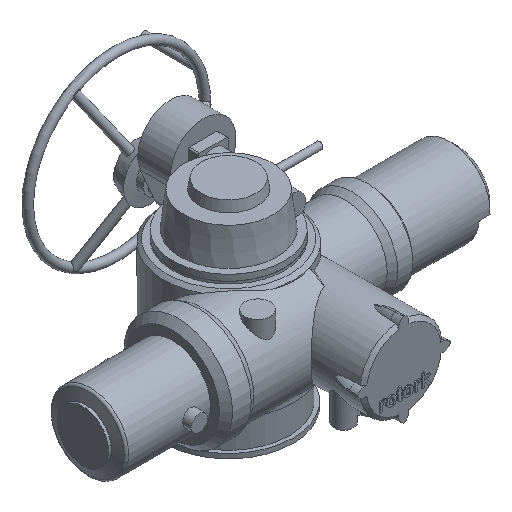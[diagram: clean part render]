
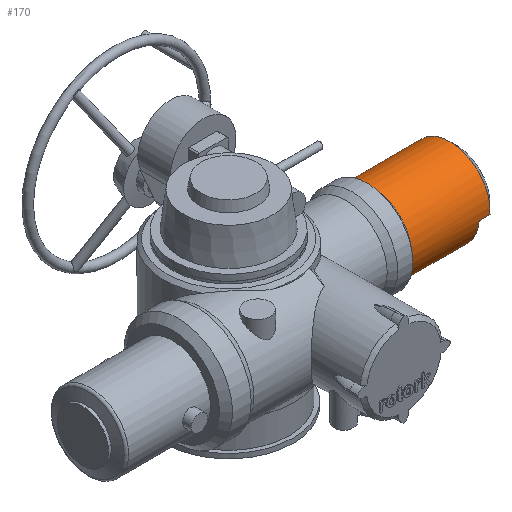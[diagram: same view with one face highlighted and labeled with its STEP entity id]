
A CAD part, isometric view. The second image highlights one B-rep face of the part: STEP entity #170.
In plain terms, the highlighted cylindrical face has radius 93.5 mm (diameter 187 mm), a full revolution.
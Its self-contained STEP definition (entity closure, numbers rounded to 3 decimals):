
#170 = ADVANCED_FACE( '', ( #663, #664 ), #665, .T. );
#663 = FACE_OUTER_BOUND( '', #1398, .T. );
#664 = FACE_OUTER_BOUND( '', #1399, .T. );
#665 = CYLINDRICAL_SURFACE( '', #1400, 93.5 );
#1398 = EDGE_LOOP( '', ( #2700, #2701, #2702, #2703, #2704, #2705, #2706, #2707 ) );
#1399 = EDGE_LOOP( '', ( #2708 ) );
#1400 = AXIS2_PLACEMENT_3D( '', #2709, #2710, #2711 );
#2700 = ORIENTED_EDGE( '', *, *, #4435, .T. );
#2701 = ORIENTED_EDGE( '', *, *, #4429, .F. );
#2702 = ORIENTED_EDGE( '', *, *, #4456, .T. );
#2703 = ORIENTED_EDGE( '', *, *, #4454, .F. );
#2704 = ORIENTED_EDGE( '', *, *, #4439, .T. );
#2705 = ORIENTED_EDGE( '', *, *, #4452, .F. );
#2706 = ORIENTED_EDGE( '', *, *, #4486, .T. );
#2707 = ORIENTED_EDGE( '', *, *, #4420, .F. );
#2708 = ORIENTED_EDGE( '', *, *, #4488, .F. );
#2709 = CARTESIAN_POINT( '', ( -26.871, -35., 0. ) );
#2710 = DIRECTION( '', ( 1., 0., 0. ) );
#2711 = DIRECTION( '', ( 0., 0., 1. ) );
#4420 = EDGE_CURVE( '', #5249, #5250, #5251, .F. );
#4429 = EDGE_CURVE( '', #5266, #5267, #5268, .T. );
#4435 = EDGE_CURVE( '', #5249, #5267, #5276, .F. );
#4439 = EDGE_CURVE( '', #5278, #5282, #5284, .F. );
#4452 = EDGE_CURVE( '', #5305, #5282, #5306, .T. );
#4454 = EDGE_CURVE( '', #5278, #5308, #5309, .F. );
#4456 = EDGE_CURVE( '', #5266, #5308, #5311, .T. );
#4486 = EDGE_CURVE( '', #5305, #5250, #5362, .T. );
#4488 = EDGE_CURVE( '', #5365, #5365, #5366, .T. );
#5249 = VERTEX_POINT( '', #8151 );
#5250 = VERTEX_POINT( '', #8152 );
#5251 = LINE( '', #8153, #8154 );
#5266 = VERTEX_POINT( '', #8179 );
#5267 = VERTEX_POINT( '', #8180 );
#5268 = LINE( '', #8181, #8182 );
#5276 = CIRCLE( '', #8198, 93.5 );
#5278 = VERTEX_POINT( '', #8200 );
#5282 = VERTEX_POINT( '', #8207 );
#5284 = CIRCLE( '', #8212, 93.5 );
#5305 = VERTEX_POINT( '', #8239 );
#5306 = LINE( '', #8240, #8241 );
#5308 = VERTEX_POINT( '', #8246 );
#5309 = LINE( '', #8247, #8248 );
#5311 = CIRCLE( '', #8253, 93.5 );
#5362 = CIRCLE( '', #8429, 93.5 );
#5365 = VERTEX_POINT( '', #8432 );
#5366 = CIRCLE( '', #8433, 93.5 );
#8151 = CARTESIAN_POINT( '', ( 455.7, 58.238, -7. ) );
#8152 = CARTESIAN_POINT( '', ( 480.7, 58.238, -7. ) );
#8153 = CARTESIAN_POINT( '', ( -26.871, 58.238, -7. ) );
#8154 = VECTOR( '', #10589, 1000. );
#8179 = CARTESIAN_POINT( '', ( 480.7, -28., -93.238 ) );
#8180 = CARTESIAN_POINT( '', ( 455.7, -28., -93.238 ) );
#8181 = CARTESIAN_POINT( '', ( -26.871, -28., -93.238 ) );
#8182 = VECTOR( '', #10600, 1000. );
#8198 = AXIS2_PLACEMENT_3D( '', #10606, #10607, #10608 );
#8200 = CARTESIAN_POINT( '', ( 455.7, -42., -93.238 ) );
#8207 = CARTESIAN_POINT( '', ( 455.7, -128.238, -7. ) );
#8212 = AXIS2_PLACEMENT_3D( '', #10612, #10613, #10614 );
#8239 = CARTESIAN_POINT( '', ( 480.7, -128.238, -7. ) );
#8240 = CARTESIAN_POINT( '', ( -26.871, -128.238, -7. ) );
#8241 = VECTOR( '', #10639, 1000. );
#8246 = CARTESIAN_POINT( '', ( 480.7, -42., -93.238 ) );
#8247 = CARTESIAN_POINT( '', ( -26.871, -42., -93.238 ) );
#8248 = VECTOR( '', #10640, 1000. );
#8253 = AXIS2_PLACEMENT_3D( '', #10641, #10642, #10643 );
#8429 = AXIS2_PLACEMENT_3D( '', #10674, #10675, #10676 );
#8432 = CARTESIAN_POINT( '', ( 298.7, -35., 93.5 ) );
#8433 = AXIS2_PLACEMENT_3D( '', #10680, #10681, #10682 );
#10589 = DIRECTION( '', ( -1., 0., 0. ) );
#10600 = DIRECTION( '', ( -1., 0., 0. ) );
#10606 = CARTESIAN_POINT( '', ( 455.7, -35., 0. ) );
#10607 = DIRECTION( '', ( 1., 0., 0. ) );
#10608 = DIRECTION( '', ( 0., 0., -1. ) );
#10612 = CARTESIAN_POINT( '', ( 455.7, -35., 0. ) );
#10613 = DIRECTION( '', ( 1., 0., 0. ) );
#10614 = DIRECTION( '', ( 0., 0., -1. ) );
#10639 = DIRECTION( '', ( -1., 0., 0. ) );
#10640 = DIRECTION( '', ( -1., 0., 0. ) );
#10641 = CARTESIAN_POINT( '', ( 480.7, -35., 0. ) );
#10642 = DIRECTION( '', ( -1., 0., 0. ) );
#10643 = DIRECTION( '', ( 0., 0., 1. ) );
#10674 = CARTESIAN_POINT( '', ( 480.7, -35., 0. ) );
#10675 = DIRECTION( '', ( -1., 0., 0. ) );
#10676 = DIRECTION( '', ( 0., 0., 1. ) );
#10680 = CARTESIAN_POINT( '', ( 298.7, -35., 0. ) );
#10681 = DIRECTION( '', ( -1., 0., 0. ) );
#10682 = DIRECTION( '', ( 0., 0., 1. ) );
